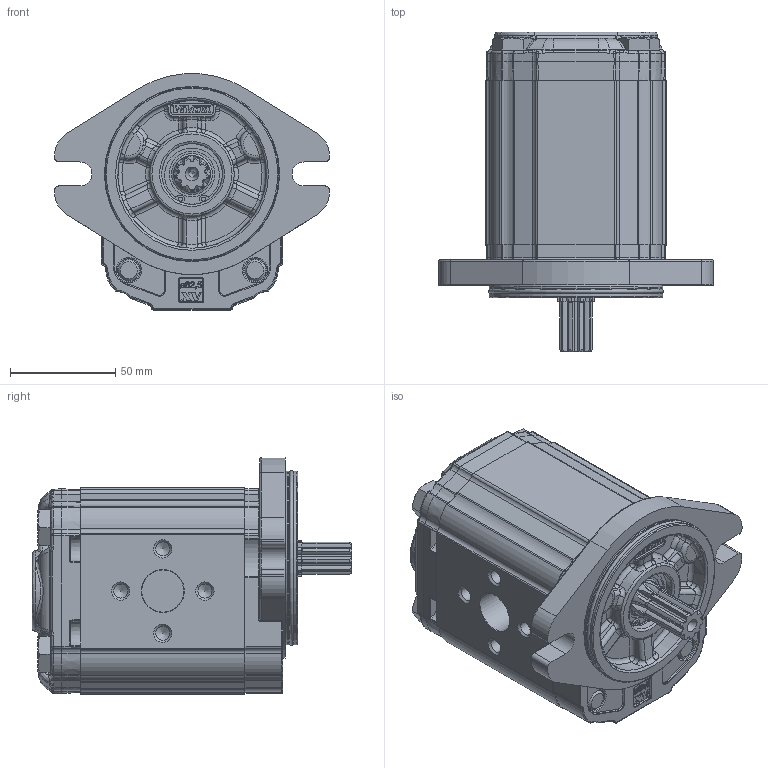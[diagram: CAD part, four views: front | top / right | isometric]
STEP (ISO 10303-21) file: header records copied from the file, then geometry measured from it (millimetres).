
FILE_DESCRIPTION(/* description */ ('Unknown'),/* implementation_level */ '2;1');
FILE_NAME(/* name */ 'X2P5552IPOA',/* time_stamp */ '2020-09-21T11:32:19+02:00',/* author */ ('Unknown'),/* organization */ ('Unknown'),/* preprocessor_version */ 'ST-DEVELOPER v16.7',/* originating_system */ 'DEX',/* authorisation */ $);
FILE_SCHEMA (('AUTOMOTIVE_DESIGN { 1 0 10303 214 3 1 1 }','AUTOMOTIVE_DESIGN {1 0 10303 214 3 1 1}'));
Products named in the file (5): X2P5552IPOA; X2P52; 2I; X2POH78; XP219-A
Assembly tree (4 placements, depth 2):
  X2P5552IPOA
    X2P52
    2I
    X2POH78
    XP219-A
Bounding box: 130.38 x 151.7 x 112.3 mm (x, y, z)
Volume: 881254.3 mm3; surface area: 125144 mm2
Topology: 4 solids, 5 shells, 2223 faces, 5483 edges, 3330 vertices
Faces by surface type: cylinder 661, plane 591, bspline 570, torus 247, cone 116, sphere 38
Full cylindrical faces by diameter (mm): 2 x2, 4.917 x4, 6.647 x4, 10 x4, 10.5 x4, 11 x2, 11.5 x4, 13.5 x1, 16 x4, 17.42 x1, 17.48 x2, 18.724 x1, 20 x1, 20.595 x1, 21.741 x1, 25.834 x1, 28.56 x1, 28.57 x1, 28.8 x1, 30.4 x1, 79.6 x2, 82.5 x2
Entity records: 101724 total; most frequent: CARTESIAN_POINT 39174, ORIENTED_EDGE 10532, DIRECTION 8859, EDGE_CURVE 5266, AXIS2_PLACEMENT_3D 3383, VERTEX_POINT 3266, FACE_BOUND 2446, EDGE_LOOP 2436
